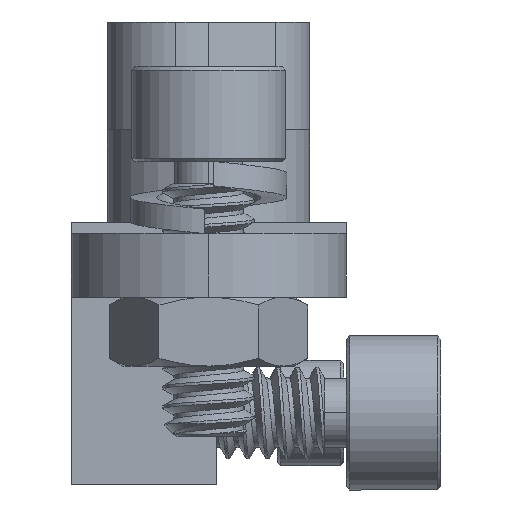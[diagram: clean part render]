
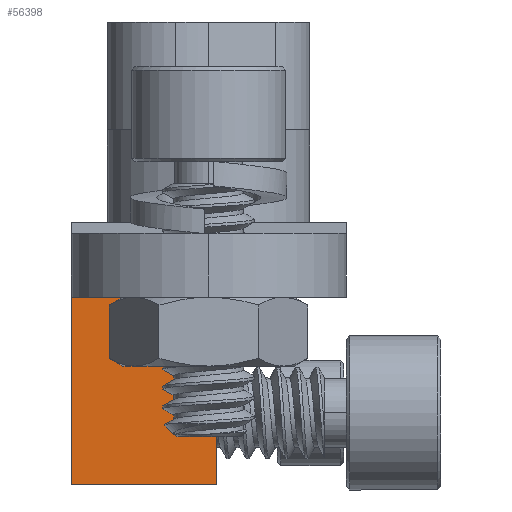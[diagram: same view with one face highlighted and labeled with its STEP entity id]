
A CAD part, left-side view. The second image highlights one B-rep face of the part: STEP entity #56398.
In plain terms, the highlighted planar face has unit normal (-1, 0, 0).
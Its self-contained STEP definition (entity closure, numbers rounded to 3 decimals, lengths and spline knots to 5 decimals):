
#820 = ORIENTED_EDGE ( 'NONE', *, *, #42492, .F. ) ;
#2279 = VECTOR ( 'NONE', #27672, 39.37008 ) ;
#3172 = DIRECTION ( 'NONE',  ( 0., 1., 0. ) ) ;
#3304 = VECTOR ( 'NONE', #35592, 39.37008 ) ;
#6652 = EDGE_LOOP ( 'NONE', ( #22277, #52365, #820, #33533 ) ) ;
#8461 = VERTEX_POINT ( 'NONE', #61177 ) ;
#11141 = CARTESIAN_POINT ( 'NONE',  ( -0.4425, -0.007, -0.029 ) ) ;
#11273 = LINE ( 'NONE', #30399, #3304 ) ;
#13083 = VECTOR ( 'NONE', #29676, 39.37008 ) ;
#14122 = CARTESIAN_POINT ( 'NONE',  ( -0.4425, 0.125, -0.199 ) ) ;
#14771 = FACE_OUTER_BOUND ( 'NONE', #6652, .T. ) ;
#19287 = DIRECTION ( 'NONE',  ( 1., 0., 0. ) ) ;
#22152 = LINE ( 'NONE', #61386, #2279 ) ;
#22277 = ORIENTED_EDGE ( 'NONE', *, *, #58044, .T. ) ;
#22827 = CARTESIAN_POINT ( 'NONE',  ( -0.4425, 0.125, -0.029 ) ) ;
#23299 = LINE ( 'NONE', #62212, #13083 ) ;
#23512 = PLANE ( 'NONE',  #31130 ) ;
#24600 = CARTESIAN_POINT ( 'NONE',  ( -0.4425, -0.007, -0.199 ) ) ;
#27672 = DIRECTION ( 'NONE',  ( 0., 1., 0. ) ) ;
#29676 = DIRECTION ( 'NONE',  ( 0., 0., 1. ) ) ;
#30399 = CARTESIAN_POINT ( 'NONE',  ( -0.4425, 0.125, -0.199 ) ) ;
#31130 = AXIS2_PLACEMENT_3D ( 'NONE', #14122, #19287, #39063 ) ;
#32376 = EDGE_CURVE ( 'NONE', #8461, #35520, #11273, .T. ) ;
#33533 = ORIENTED_EDGE ( 'NONE', *, *, #46924, .T. ) ;
#35520 = VERTEX_POINT ( 'NONE', #22827 ) ;
#35592 = DIRECTION ( 'NONE',  ( 0., 0., 1. ) ) ;
#39036 = VERTEX_POINT ( 'NONE', #11141 ) ;
#39063 = DIRECTION ( 'NONE',  ( 0., 1., 0. ) ) ;
#42492 = EDGE_CURVE ( 'NONE', #61750, #8461, #47566, .T. ) ;
#43201 = VECTOR ( 'NONE', #3172, 39.37008 ) ;
#43663 = CARTESIAN_POINT ( 'NONE',  ( -0.4425, 0.125, -0.199 ) ) ;
#46924 = EDGE_CURVE ( 'NONE', #61750, #39036, #23299, .T. ) ;
#47566 = LINE ( 'NONE', #43663, #43201 ) ;
#52365 = ORIENTED_EDGE ( 'NONE', *, *, #32376, .F. ) ;
#56398 = ADVANCED_FACE ( 'NONE', ( #14771 ), #23512, .F. ) ;
#58044 = EDGE_CURVE ( 'NONE', #39036, #35520, #22152, .T. ) ;
#61177 = CARTESIAN_POINT ( 'NONE',  ( -0.4425, 0.125, -0.199 ) ) ;
#61386 = CARTESIAN_POINT ( 'NONE',  ( -0.4425, 0.125, -0.029 ) ) ;
#61750 = VERTEX_POINT ( 'NONE', #24600 ) ;
#62212 = CARTESIAN_POINT ( 'NONE',  ( -0.4425, -0.007, -0.199 ) ) ;
